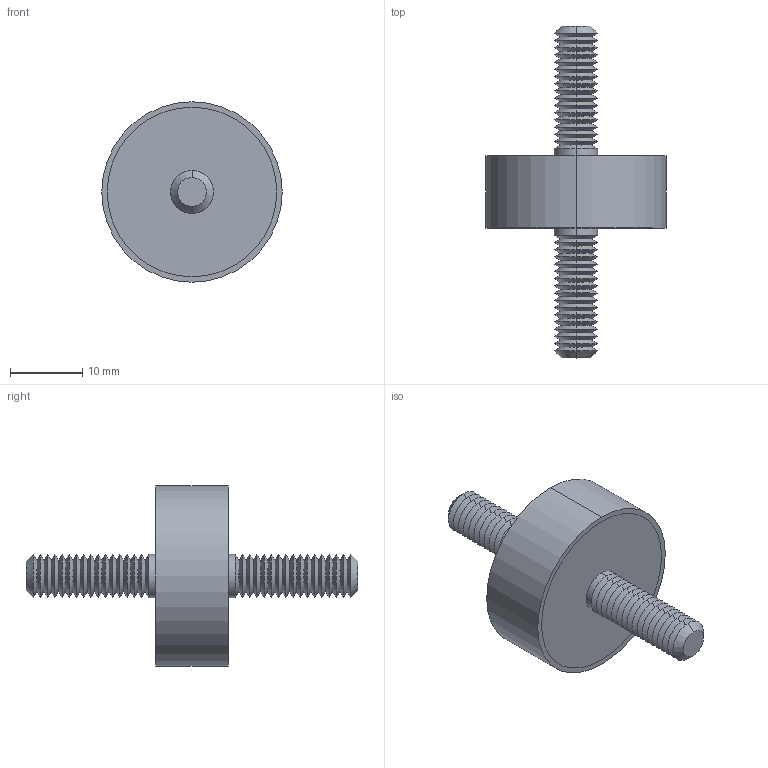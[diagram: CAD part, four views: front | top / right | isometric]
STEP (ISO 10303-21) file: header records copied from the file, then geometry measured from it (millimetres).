
FILE_DESCRIPTION (( 'STEP AP203' ), '1' );
FILE_NAME ('61040.W0252.step', '2019-09-24T22:31:47', ( '' ), ( '' ), 'SwSTEP 2.0', 'SolidWorks 2017', '' );
FILE_SCHEMA (( 'CONFIG_CONTROL_DESIGN' ));
Length unit declared in the file: millimetre
Products named in the file (4): 61040.W0252; Part3_61040.W0252; Part2_61040.W0252; Part1_61040.W0252
Assembly tree (3 placements, depth 2):
  61040.W0252
    Part1_61040.W0252
    Part2_61040.W0252
    Part3_61040.W0252
Bounding box: 25 x 46 x 25 mm (x, y, z)
Volume: 5673.8 mm3; surface area: 4732.7 mm2
Topology: 3 solids, 3 shells, 156 faces, 306 edges, 160 vertices
Faces by surface type: cone 132, cylinder 14, plane 10
Entity records: 4308 total; most frequent: DIRECTION 790, CARTESIAN_POINT 628, ORIENTED_EDGE 612, AXIS2_PLACEMENT_3D 322, EDGE_CURVE 306, VERTEX_POINT 160, CIRCLE 160, EDGE_LOOP 160
